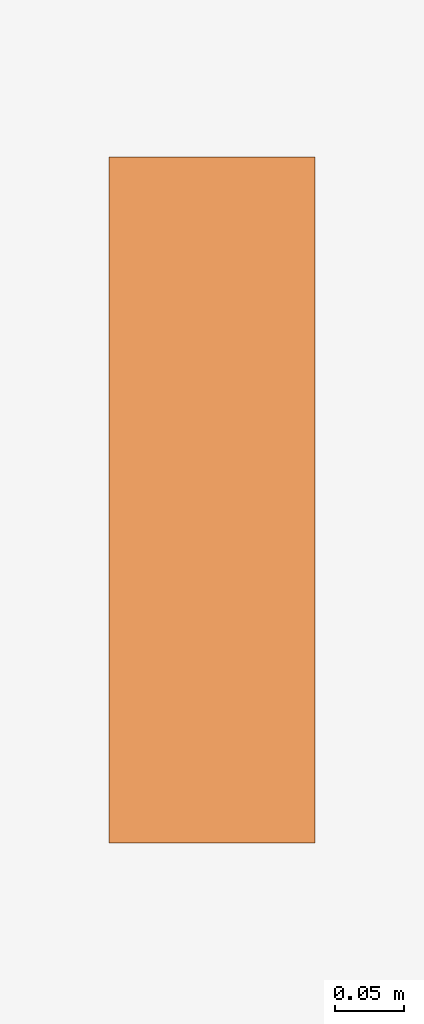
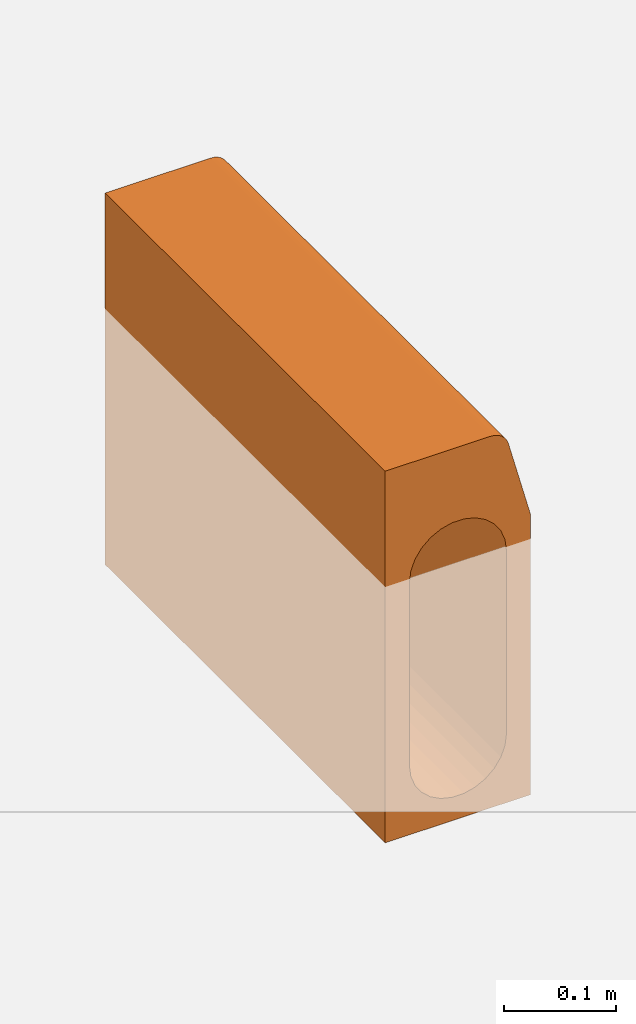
# One storey, part 2 of 2: 1 proxy.
"""IFC2X3 building model written with IfcOpenShell, lengths in millimetres."""

from ifc_helpers import new_model, entity, si_unit, converted_unit, direction, frame, frame_2d, origin, place, context, subcontext, project, spatial, polyline, circle_curve, parameter, trimmed, segment, composite_curve, outline, extrude, source, transform, mapped, material, element, save


model = new_model("IFC2X3")

# Units and contexts
model_context = context("Model", 3, precision=1e-06, world=origin(), true_north=direction((2.0, 6.12303176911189e-17, 1.0)))
context_of_model = context(None, 3, precision=1e-06, world=origin(), true_north=direction((2.0, 6.12303176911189e-17, 1.0)))
body_context = subcontext(model_context, "Body", "Model", "MODEL_VIEW")
ifc_project = project(units=[si_unit("LENGTHUNIT", "METRE", prefix="MILLI"), si_unit("AREAUNIT", "SQUARE_METRE", prefix="MILLI"), si_unit("VOLUMEUNIT", "CUBIC_METRE", prefix="MILLI"), converted_unit("PLANEANGLEUNIT", "DEGREE", entity("IfcRatioMeasure", 0.0174532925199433), si_unit("PLANEANGLEUNIT", "RADIAN"), dimensions=[0, 0, 0, 0, 0, 0, 0]), si_unit("TIMEUNIT", "SECOND")], contexts=[model_context, context_of_model])

# Site, building, storey
site_placement = place(None, origin())
site = spatial("IfcSite", under=ifc_project, at=site_placement, Name="Default", CompositionType="ELEMENT")
building_placement = place(site_placement, origin())
building = spatial("IfcBuilding", under=site, at=building_placement, CompositionType="ELEMENT")
storey_placement = place(building_placement, origin())
storey = spatial("IfcBuildingStorey", under=building, at=storey_placement, Name="Level 1", CompositionType="ELEMENT", Elevation=0.0)

# Proxy
ifc_material = material(Name="ACO Polymer Concrete.")
shared_shape = source(origin(), body_context, "Body", "SweptSolid", [
    extrude(outline(composite_curve([segment(polyline([(-89.2673877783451, -154.013739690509), (19.358480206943, -154.013739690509)]), True, "CONTINUOUS"), segment(trimmed(circle_curve(frame_2d((19.358480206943, -135.013739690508), x_axis=(1.0, 0.0)), 19.0), [parameter(270.0)], [parameter(345.0)], True, "PARAMETER"), True, "CONTINUOUS"), segment(polyline([(37.7110709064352, -139.931301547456), (60.7326122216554, -54.0137396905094)]), True, "CONTINUOUS"), segment(polyline([(60.7326122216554, -54.0137396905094), (60.7326122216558, 250.986260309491)]), True, "CONTINUOUS"), segment(polyline([(60.7326122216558, 250.986260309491), (-89.2673877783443, 250.986260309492)]), True, "CONTINUOUS"), segment(polyline([(-89.2673877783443, 250.986260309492), (-89.2673877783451, -154.013739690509)]), True, "CONTINUOUS")], self_intersect=False), holes=[composite_curve([segment(trimmed(circle_curve(frame_2d((-14.2673877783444, -24.0137396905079), x_axis=(1.0, 0.0)), 50.0), [parameter(180.0)], [parameter(0.0)], True, "PARAMETER"), False, "CONTINUOUS"), segment(polyline([(-64.2673877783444, -24.0137396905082), (-64.2673877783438, 175.986260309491)]), True, "CONTINUOUS"), segment(trimmed(circle_curve(frame_2d((-14.2673877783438, 175.986260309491), x_axis=(1.0, 0.0)), 50.0), [parameter(0.0)], [parameter(180.0)], True, "PARAMETER"), False, "CONTINUOUS"), segment(polyline([(35.7326122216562, 175.986260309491), (35.7326122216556, -24.0137396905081)]), True, "CONTINUOUS")], self_intersect=False)]), frame((14.2673877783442, 0.0, -29.0137396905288), z_axis=(0.0, 1.0, 0.0), x_axis=(1.0, 0.0, 0.0)), (0.0, 0.0, 1.0), 500.0),
])
proxy_placement = place(storey_placement, frame((-14541.5994818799, -705.326112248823, 0.0)))
element("IfcBuildingElementProxy", 1, at=proxy_placement, inside=storey, material=ifc_material, Name="Civil-Drainage-Channel-ACO-KerbDrain-HB405:4230 - Blind unit - 500mm LG:4230 - Blind unit - 500mm LG", ObjectType="4230 - Blind unit - 500mm LG", CompositionType="ELEMENT", context=body_context, shape_type="MappedRepresentation", body=[
    mapped(shared_shape, transform((0.0, 0.0, 0.0), scale=1.0)),
])

save(model, "model.ifc")
